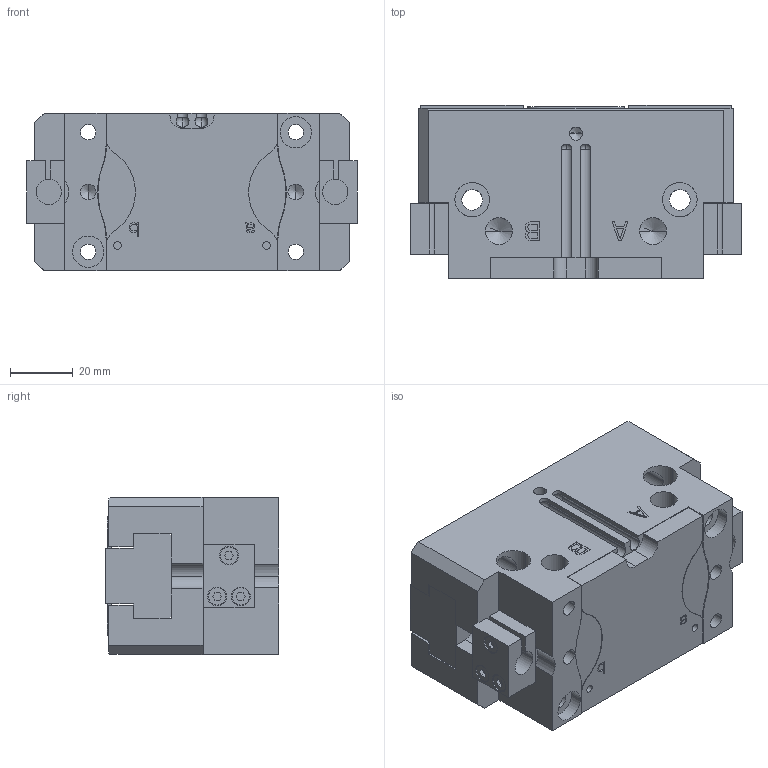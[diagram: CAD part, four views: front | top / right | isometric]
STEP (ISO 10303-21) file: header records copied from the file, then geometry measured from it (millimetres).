
FILE_DESCRIPTION (( 'STEP AP214' ), '1' );
FILE_NAME ('FPT-100A-1.STEP', '2020-07-06T07:30:17', ( '' ), ( '' ), 'SwSTEP 2.0', 'SolidWorks 2016', '' );
FILE_SCHEMA (( 'AUTOMOTIVE_DESIGN' ));
Length unit declared in the file: millimetre
Products named in the file (6): NAUO1; NAUO3; NAUO2; NAUO8; FPT-100A-1; NAUO4
Assembly tree (7 placements, depth 2):
  FPT-100A-1
    NAUO1
    NAUO2
    NAUO3
    NAUO4  x2
    NAUO8  x2
Bounding box: 105 x 55 x 50 mm (x, y, z)
Volume: 227657.8 mm3; surface area: 64598.9 mm2
Topology: 7 solids, 7 shells, 607 faces, 1609 edges, 1038 vertices
Faces by surface type: plane 365, cylinder 178, cone 60, sphere 4
Entity records: 16791 total; most frequent: CARTESIAN_POINT 3387, DIRECTION 2745, ORIENTED_EDGE 2706, EDGE_CURVE 1353, VECTOR 981, LINE 981, VERTEX_POINT 900, AXIS2_PLACEMENT_3D 882
